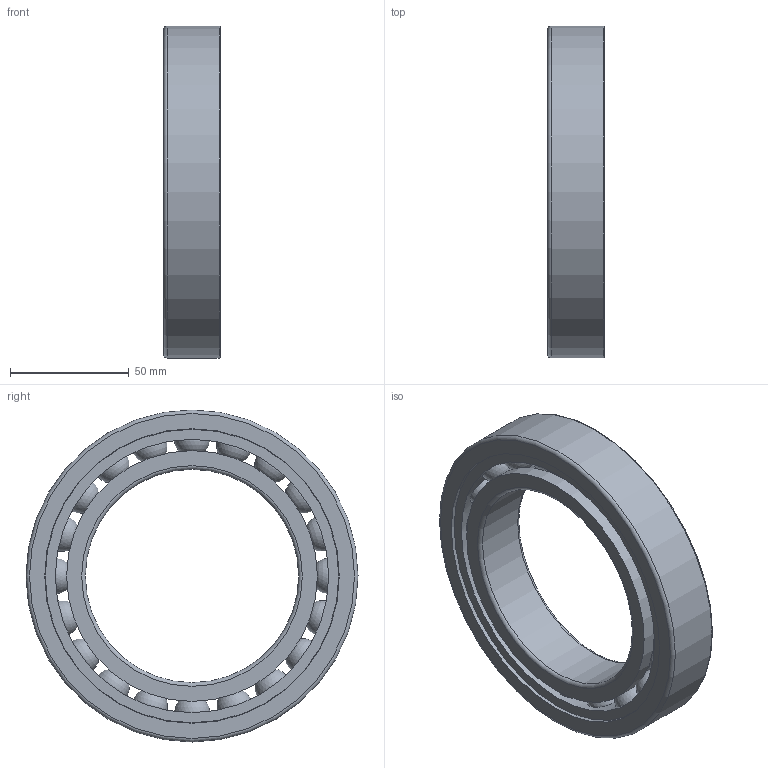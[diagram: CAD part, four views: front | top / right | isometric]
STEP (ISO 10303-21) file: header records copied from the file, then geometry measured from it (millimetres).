
FILE_DESCRIPTION(/* description */ (''),/* implementation_level */ '2;1');
FILE_NAME(/* name */ 'S_6018_TA.step',/* time_stamp */ '2013-03-06T14:43:37+01:00',/* author */ ('Marian'),/* organization */ ('GMN'),/* preprocessor_version */ 'ST-DEVELOPER v11',/* originating_system */ 'SIEMENS UGS NX 6.0',/* authorisation */ '');
FILE_SCHEMA (('CONFIG_CONTROL_DESIGN'));
Length unit declared in the file: millimetre
Products named in the file (1): S_6018_TA
Bounding box: 24 x 140 x 140 mm (x, y, z)
Volume: 163122.6 mm3; surface area: 75283.5 mm2
Topology: 23 solids, 23 shells, 60 faces, 158 edges, 102 vertices
Faces by surface type: cylinder 27, sphere 20, torus 6, plane 6, cone 1
Full cylindrical faces by diameter (mm): 15.281 x20, 90 x1, 105.8 x2, 115.301 x1, 123.8 x1, 124.2 x1, 140 x1
Entity records: 1978 total; most frequent: CARTESIAN_POINT 881, DIRECTION 162, FACE_BOUND 140, EDGE_LOOP 120, ORIENTED_EDGE 120, AXIS2_PLACEMENT_3D 81, VERTEX_POINT 80, EDGE_CURVE 60
